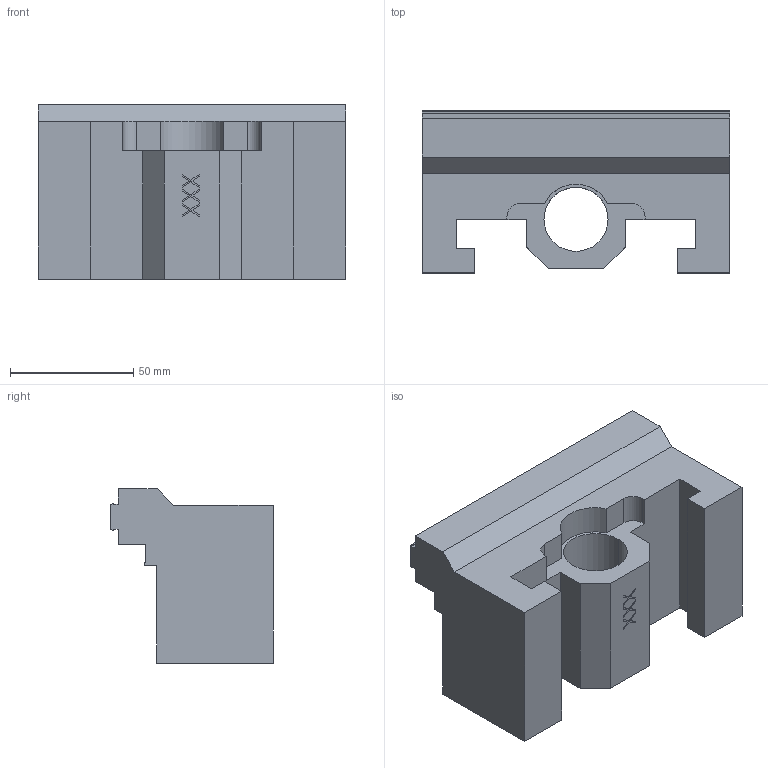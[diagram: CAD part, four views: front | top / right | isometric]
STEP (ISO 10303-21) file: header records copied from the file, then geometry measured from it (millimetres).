
FILE_DESCRIPTION (( 'STEP AP214' ), '1' );
FILE_NAME ('81483-01.STEP', '2020-10-27T12:44:09', ( '' ), ( '' ), 'SwSTEP 2.0', 'SolidWorks 2019', '' );
FILE_SCHEMA (( 'AUTOMOTIVE_DESIGN' ));
Length unit declared in the file: millimetre
Products named in the file (1): 81483-01
Bounding box: 124.6 x 65.8 x 70.7 mm (x, y, z)
Volume: 308943.7 mm3; surface area: 47742.6 mm2
Topology: 1 solids, 1 shells, 218 faces, 609 edges, 406 vertices
Faces by surface type: plane 180, bspline 31, cylinder 7
Entity records: 8067 total; most frequent: CARTESIAN_POINT 2237, ORIENTED_EDGE 1218, DIRECTION 939, EDGE_CURVE 609, VECTOR 531, LINE 531, VERTEX_POINT 406, EDGE_LOOP 233
